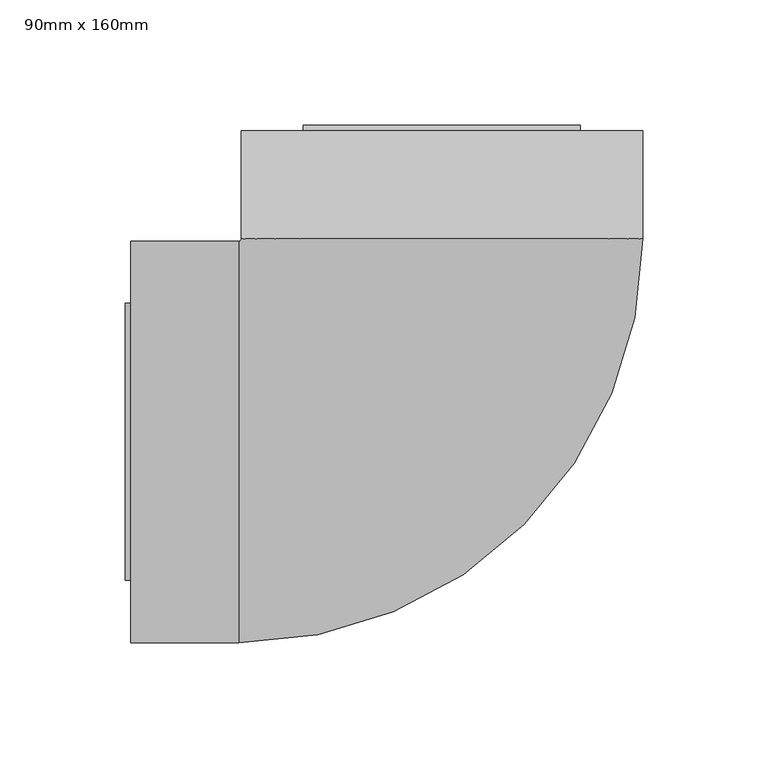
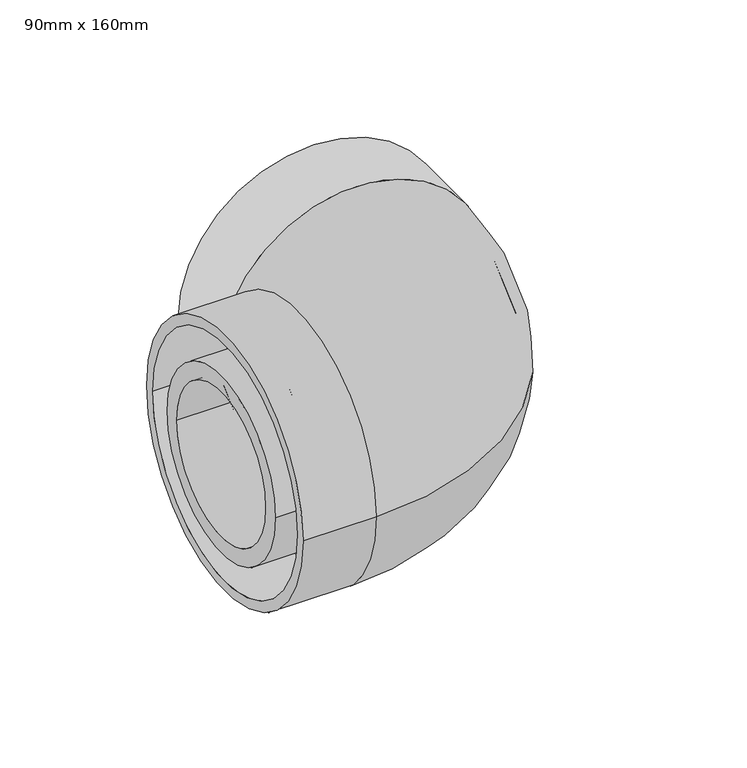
"""IFC4 building model written with IfcOpenShell, lengths in millimetres: pipe fitting geometry, Durapipe_PipeFittings_PLX_CloseFit_90Elbow : 90mm x 160mm."""

from ifc_helpers import new_model, si_unit, point, frame, origin, place, context, project, spatial, polyline, circle_curve, ellipse_curve, trimmed, source, transform, mapped, element, save
from ifc_brep_helpers import plane_surface, cylinder_surface, revolved_surface, advanced_brep


def pipe_fitting_90mm_x_160mm_57b9e27f(model_context):
    return source(origin(), model_context, "Body", "AdvancedBrep", [
        advanced_brep(
        [(-124.0, -80.0, 0.0), (-124.0, 80.0, 0.0), (-124.0, -73.75, 0.0), (-124.0, 73.75, 0.0), (-81.0, -80.0, 0.0), (-81.0, 80.0, 0.0), (-81.0, -73.75, 0.0), (-81.0, 73.75, 0.0), (-80.0, 81.0, 0.0), (80.0, 81.0, 0.0), (-73.75, 81.0, 0.0), (73.75, 81.0, 0.0), (80.0, 124.0, 0.0), (-80.0, 124.0, 0.0), (73.75, 124.0, 0.0), (-73.75, 124.0, 0.0)],
        [
            (0, 1, circle_curve(frame((-124.0, 0.0, 0.0), z_axis=(-1.0, 0.0, 0.0), x_axis=(0.0, 1.0, 0.0)), 80.0)),
            (1, 0, circle_curve(frame((-124.0, 0.0, 0.0), z_axis=(-1.0, 0.0, 0.0), x_axis=(0.0, 1.0, 0.0)), 80.0)),
            (2, 3, circle_curve(frame((-124.0, 0.0, 0.0), z_axis=(1.0, 0.0, 0.0), x_axis=(0.0, 1.0, 0.0)), 73.75)),
            (3, 2, circle_curve(frame((-124.0, 0.0, 0.0), z_axis=(1.0, 0.0, 0.0), x_axis=(0.0, 1.0, 0.0)), 73.75)),
            (0, 4),
            (4, 5, circle_curve(frame((-81.0, 0.0, 0.0), z_axis=(-1.0, 0.0, 0.0), x_axis=(0.0, 1.0, 0.0)), 80.0)),
            (5, 1),
            (5, 4, circle_curve(frame((-81.0, 0.0, 0.0), z_axis=(-1.0, 0.0, 0.0), x_axis=(0.0, 1.0, 0.0)), 80.0)),
            (2, 6),
            (6, 7, circle_curve(frame((-81.0, 0.0, 0.0), z_axis=(1.0, 0.0, 0.0), x_axis=(0.0, 1.0, 0.0)), 73.75)),
            (7, 3),
            (7, 6, circle_curve(frame((-81.0, 0.0, 0.0), z_axis=(1.0, 0.0, 0.0), x_axis=(0.0, 1.0, 0.0)), 73.75)),
            (8, 5, circle_curve(frame((-81.0, 81.0, 0.0), z_axis=(0.0, 0.0, -1.0), x_axis=(0.0, -1.0, 0.0)), 1.0)),
            (4, 9, circle_curve(frame((-81.0, 81.0, 0.0), z_axis=(0.0, 0.0, 1.0), x_axis=(0.0, -1.0, 0.0)), 161.0)),
            (9, 8, circle_curve(frame((0.0, 81.0, 0.0), z_axis=(0.0, -1.0, 0.0), x_axis=(-1.0, 0.0, 0.0)), 80.0)),
            (8, 9, circle_curve(frame((0.0, 81.0, 0.0), z_axis=(0.0, -1.0, 0.0), x_axis=(-1.0, 0.0, 0.0)), 80.0)),
            (10, 7, circle_curve(frame((-81.0, 81.0, 0.0), z_axis=(0.0, 0.0, -1.0), x_axis=(0.0, -1.0, 0.0)), 7.25)),
            (6, 11, circle_curve(frame((-81.0, 81.0, 0.0), z_axis=(0.0, 0.0, 1.0), x_axis=(0.0, -1.0, 0.0)), 154.75)),
            (11, 10, circle_curve(frame((0.0, 81.0, 0.0), z_axis=(0.0, 1.0, 0.0), x_axis=(-1.0, 0.0, 0.0)), 73.75)),
            (10, 11, circle_curve(frame((0.0, 81.0, 0.0), z_axis=(0.0, 1.0, 0.0), x_axis=(-1.0, 0.0, 0.0)), 73.75)),
            (12, 13, circle_curve(frame((0.0, 124.0, 0.0), z_axis=(0.0, 1.0, 0.0), x_axis=(-1.0, 0.0, 0.0)), 80.0)),
            (13, 12, circle_curve(frame((0.0, 124.0, 0.0), z_axis=(0.0, 1.0, 0.0), x_axis=(-1.0, 0.0, 0.0)), 80.0)),
            (14, 15, circle_curve(frame((0.0, 124.0, 0.0), z_axis=(0.0, -1.0, 0.0), x_axis=(-1.0, 0.0, 0.0)), 73.75)),
            (15, 14, circle_curve(frame((0.0, 124.0, 0.0), z_axis=(0.0, -1.0, 0.0), x_axis=(-1.0, 0.0, 0.0)), 73.75)),
            (9, 12),
            (13, 8),
            (11, 14),
            (15, 10),
        ],
        [
            plane_surface(frame((-124.0, 0.0, 0.0), z_axis=(-1.0, 0.0, 0.0), x_axis=(0.0, 0.0, 1.0))),
            cylinder_surface(frame((-124.0, 0.0, 0.0), z_axis=(-1.0, 0.0, 0.0), x_axis=(0.0, 1.0, 0.0)), 80.0),
            revolved_surface(polyline([(-81.0, 73.75, 0.0), (-124.0, 73.75, 0.0)]), (-124.0, 0.0, 0.0), (1.0, 0.0, 0.0)),
            revolved_surface(trimmed(ellipse_curve(frame((-81.0, 0.0, 0.0), z_axis=(-1.0, 0.0, 0.0), x_axis=(0.0, 1.0, 0.0)), 80.0, 80.0), [point((-81.0, -80.0, 0.0))], [point((-81.0, 80.0, 0.0))], True, "CARTESIAN"), (-81.0, 81.0, 0.0), (0.0, 0.0, 1.0)),
            revolved_surface(trimmed(ellipse_curve(frame((-81.0, 0.0, 0.0), z_axis=(-1.0, 0.0, 0.0), x_axis=(0.0, 1.0, 0.0)), 80.0, 80.0), [point((-81.0, 80.0, 0.0))], [point((-81.0, -80.0, 0.0))], True, "CARTESIAN"), (-81.0, 81.0, 0.0), (0.0, 0.0, 1.0)),
            revolved_surface(trimmed(ellipse_curve(frame((-81.0, 0.0, 0.0), z_axis=(1.0, 0.0, 0.0), x_axis=(0.0, 1.0, 0.0)), 73.75, 73.75), [point((-81.0, -73.75, 0.0))], [point((-81.0, 73.75, 0.0))], True, "CARTESIAN"), (-81.0, 81.0, 0.0), (0.0, 0.0, 1.0)),
            revolved_surface(trimmed(ellipse_curve(frame((-81.0, 0.0, 0.0), z_axis=(1.0, 0.0, 0.0), x_axis=(0.0, 1.0, 0.0)), 73.75, 73.75), [point((-81.0, 73.75, 0.0))], [point((-81.0, -73.75, 0.0))], True, "CARTESIAN"), (-81.0, 81.0, 0.0), (0.0, 0.0, 1.0)),
            plane_surface(frame((0.0, 124.0, 0.0), z_axis=(0.0, 1.0, 0.0), x_axis=(0.0, 0.0, 1.0))),
            cylinder_surface(frame((0.0, 81.0, 0.0), z_axis=(0.0, -1.0, 0.0), x_axis=(-1.0, 0.0, 0.0)), 80.0),
            revolved_surface(polyline([(-73.75, 124.0, 0.0), (-73.75, 81.0, 0.0)]), (0.0, 81.0, 0.0), (0.0, 1.0, 0.0)),
        ],
        [
            (0, [[1, 2], [3, 4]]),
            (1, [[-1, 5, 6, 7]]),
            (1, [[-2, -7, 8, -5]]),
            (2, [[-3, 9, 10, 11]]),
            (2, [[-4, -11, 12, -9]]),
            (3, [[13, -6, 14, 15]]),
            (4, [[-14, -8, -13, 16]]),
            (5, [[17, -10, 18, 19]]),
            (6, [[-18, -12, -17, 20]]),
            (7, [[21, 22], [23, 24]]),
            (8, [[-15, 25, -22, 26]]),
            (8, [[-16, -26, -21, -25]]),
            (9, [[-19, 27, -24, 28]]),
            (9, [[-20, -28, -23, -27]]),
        ],
    ),
        advanced_brep(
        [(-56.25, 55.25, 0.0), (-56.25, -55.25, 0.0), (55.25, 56.25, 0.0), (-55.25, 56.25, 0.0), (-126.2, -55.25, 0.0), (-126.2, 55.25, 0.0), (-126.2, -45.25, 0.0), (-126.2, 45.25, 0.0), (-55.25, 126.2, 0.0), (55.25, 126.2, 0.0), (0.0, 126.2, 45.25), (0.0, 126.2, -45.25), (-57.2, 45.25, 0.0), (-57.2, -45.25, 0.0), (0.0, 57.2, -45.25), (0.0, 57.2, 45.25)],
        [
            (0, 1, circle_curve(frame((-56.25, 0.0, 0.0), z_axis=(1.0, 0.0, 0.0), x_axis=(0.0, 1.0, 0.0)), 55.25)),
            (1, 2, circle_curve(frame((-56.25, 56.25, 0.0), z_axis=(0.0, 0.0, 1.0), x_axis=(0.0, -1.0, 0.0)), 111.5)),
            (2, 3, circle_curve(frame((0.0, 56.25, 0.0), z_axis=(0.0, -1.0, 0.0), x_axis=(-1.0, 0.0, 0.0)), 55.25)),
            (3, 0, circle_curve(frame((-56.25, 56.25, 0.0), z_axis=(0.0, 0.0, -1.0), x_axis=(0.0, -1.0, 0.0)), 1.0)),
            (1, 0, circle_curve(frame((-56.25, 0.0, 0.0), z_axis=(1.0, 0.0, 0.0), x_axis=(0.0, 1.0, 0.0)), 55.25)),
            (3, 2, circle_curve(frame((0.0, 56.25, 0.0), z_axis=(0.0, -1.0, 0.0), x_axis=(-1.0, 0.0, 0.0)), 55.25)),
            (4, 5, circle_curve(frame((-126.2, 0.0, 0.0), z_axis=(-1.0, 0.0, 0.0), x_axis=(0.0, 1.0, 0.0)), 55.25)),
            (5, 4, circle_curve(frame((-126.2, 0.0, 0.0), z_axis=(-1.0, 0.0, 0.0), x_axis=(0.0, 1.0, 0.0)), 55.25)),
            (6, 7, circle_curve(frame((-126.2, 0.0, 0.0), z_axis=(1.0, 0.0, 0.0), x_axis=(0.0, -1.0, 0.0)), 45.25)),
            (7, 6, circle_curve(frame((-126.2, 0.0, 0.0), z_axis=(1.0, 0.0, 0.0), x_axis=(0.0, -1.0, 0.0)), 45.25)),
            (8, 9, circle_curve(frame((0.0, 126.2, 0.0), z_axis=(0.0, 1.0, 0.0), x_axis=(-1.0, 0.0, 0.0)), 55.25)),
            (9, 8, circle_curve(frame((0.0, 126.2, 0.0), z_axis=(0.0, 1.0, 0.0), x_axis=(-1.0, 0.0, 0.0)), 55.25)),
            (10, 11, circle_curve(frame((0.0, 126.2, 0.0), z_axis=(0.0, -1.0, 0.0), x_axis=(0.0, 0.0, 1.0)), 45.25)),
            (11, 10, circle_curve(frame((0.0, 126.2, 0.0), z_axis=(0.0, -1.0, 0.0), x_axis=(0.0, 0.0, 1.0)), 45.25)),
            (0, 5),
            (4, 1),
            (2, 9),
            (8, 3),
            (12, 13, circle_curve(frame((-57.2, 0.0, 0.0), z_axis=(-1.0, 0.0, 0.0), x_axis=(0.0, -1.0, 0.0)), 45.25)),
            (13, 12, circle_curve(frame((-57.2, 0.0, 0.0), z_axis=(-1.0, 0.0, 0.0), x_axis=(0.0, -1.0, 0.0)), 45.25)),
            (12, 7),
            (6, 13),
            (14, 15, circle_curve(frame((0.0, 57.2, 0.0), z_axis=(0.0, 1.0, 0.0), x_axis=(0.0, 0.0, 1.0)), 45.25)),
            (15, 14, circle_curve(frame((0.0, 57.2, 0.0), z_axis=(0.0, 1.0, 0.0), x_axis=(0.0, 0.0, 1.0)), 45.25)),
            (14, 11),
            (10, 15),
        ],
        [
            revolved_surface(trimmed(ellipse_curve(frame((-56.25, 0.0, 0.0), z_axis=(-1.0, 0.0, 0.0), x_axis=(0.0, 1.0, 0.0)), 55.25, 55.25), [point((-56.25, -55.25, 0.0))], [point((-56.25, 55.25, 0.0))], True, "CARTESIAN"), (-56.25, 56.25, 0.0), (0.0, 0.0, 1.0)),
            revolved_surface(trimmed(ellipse_curve(frame((-56.25, 0.0, 0.0), z_axis=(-1.0, 0.0, 0.0), x_axis=(0.0, 1.0, 0.0)), 55.25, 55.25), [point((-56.25, 55.25, 0.0))], [point((-56.25, -55.25, 0.0))], True, "CARTESIAN"), (-56.25, 56.25, 0.0), (0.0, 0.0, 1.0)),
            plane_surface(frame((-126.2, 0.0, 0.0), z_axis=(-1.0, 0.0, 0.0), x_axis=(0.0, 0.0, 1.0))),
            plane_surface(frame((0.0, 126.2, 0.0), z_axis=(0.0, 1.0, 0.0), x_axis=(0.0, 0.0, 1.0))),
            cylinder_surface(frame((-126.2, 0.0, 0.0), z_axis=(-1.0, 0.0, 0.0), x_axis=(0.0, 1.0, 0.0)), 55.25),
            cylinder_surface(frame((0.0, 56.25, 0.0), z_axis=(0.0, -1.0, 0.0), x_axis=(-1.0, 0.0, 0.0)), 55.25),
            plane_surface(frame((-57.2, -45.25, 0.0), z_axis=(-1.0, 0.0, 0.0), x_axis=(0.0, 0.0, -1.0))),
            revolved_surface(polyline([(-126.2, -45.25, 0.0), (-57.2, -45.25, 0.0)]), (-57.2, 0.0, 0.0), (-1.0, 0.0, 0.0)),
            plane_surface(frame((0.0, 57.2, 45.25), z_axis=(0.0, 1.0, 0.0), x_axis=(-1.0, 0.0, 0.0))),
            revolved_surface(polyline([(0.0, 126.2, 45.25), (0.0, 57.2, 45.25)]), (0.0, 57.2, 0.0), (0.0, 1.0, 0.0)),
        ],
        [
            (0, [[1, 2, 3, 4]]),
            (1, [[5, -4, 6, -2]]),
            (2, [[7, 8], [9, 10]]),
            (3, [[11, 12], [13, 14]]),
            (4, [[-1, 15, -7, 16]]),
            (4, [[-5, -16, -8, -15]]),
            (5, [[-3, 17, -11, 18]]),
            (5, [[-6, -18, -12, -17]]),
            (6, [[19, 20]]),
            (7, [[-19, 21, -9, 22]]),
            (7, [[-20, -22, -10, -21]]),
            (8, [[23, 24]]),
            (9, [[-23, 25, -13, 26]]),
            (9, [[-24, -26, -14, -25]]),
        ],
    ),
    ])


if __name__ == "__main__":
    model = new_model("IFC4")
    model_context = context("Model", 3, world=origin())
    ifc_project = project(units=[si_unit("LENGTHUNIT", "METRE", prefix="MILLI")], contexts=[model_context])
    site = spatial("IfcSite", under=ifc_project)
    building = spatial("IfcBuilding", under=site)
    placement = place(None, origin())
    pipe_fitting_90mm_x_160mm_shape = pipe_fitting_90mm_x_160mm_57b9e27f(model_context)
    element("IfcPipeFitting", 1, ObjectType="Durapipe_PipeFittings_PLX_CloseFit_90Elbow : 90mm x 160mm", at=placement, inside=building, context=model_context, shape_type="MappedRepresentation", body=[
        mapped(pipe_fitting_90mm_x_160mm_shape, transform((0.0, 0.0, 0.0), x_axis=(1.0, 0.0, 0.0), y_axis=(0.0, 1.0, 0.0), z_axis=(0.0, 0.0, 1.0))),
    ])
    save(model, "model.ifc")
